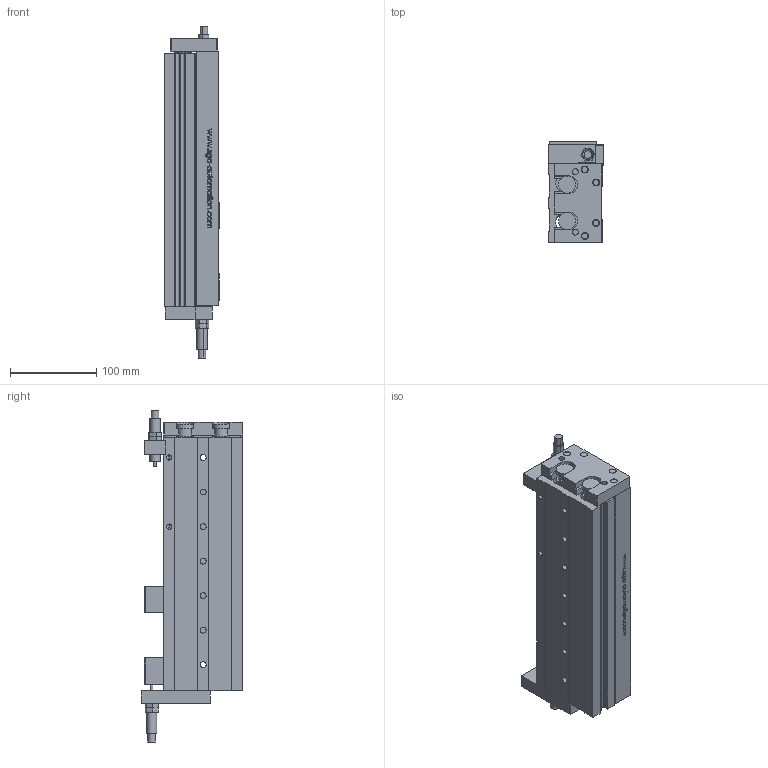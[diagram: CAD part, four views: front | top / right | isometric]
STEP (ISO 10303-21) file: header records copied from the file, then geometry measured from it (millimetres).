
FILE_DESCRIPTION (( 'STEP AP203' ), '1' );
FILE_NAME ('GDX 25-150.STEP', '2013-02-28T14:18:07', ( 'Conseil Régional Haute-Normandie' ), ( 'Conseil Régional Haute-Normandie' ), 'SwSTEP 2.0', 'SolidWorks 2010', '' );
FILE_SCHEMA (( 'CONFIG_CONTROL_DESIGN' ));
Length unit declared in the file: millimetre
Products named in the file (16): Pièce4 GDX 25-150_Default; Pièce4 GDX25-10_Default; Pièce5 GDX25-10_Default; Pièce6 boulon GDX25-10_Default; Pièce16 GDX 25-10_Default; Pièce17 GDX 25-10_Default; GDX 25-150; Pièce5 GDX25-150_Default; Pièce3 GDX25-150_Default; Pièce2 GDX25-150_Default; Pièce1 GDX25-10_Default; Pièce3 GDX25-10_Default; Pièce7 amortisseur GDX25-10_Default; Pièce8 tige amortisseur GDX25-10_Default; Pièce11 GDX25-10_Default; Pièce10 GDX25-10_Default
Assembly tree (36 placements, depth 2):
  GDX 25-150
    Pièce2 GDX25-150_Default
    Pièce4 GDX25-10_Default  x2
    Pièce17 GDX 25-10_Default  x10
    Pièce4 GDX 25-150_Default
    Pièce5 GDX25-10_Default
    Pièce3 GDX25-150_Default  x2
    Pièce6 boulon GDX25-10_Default  x4
    Pièce7 amortisseur GDX25-10_Default  x2
    Pièce10 GDX25-10_Default  x2
    Pièce5 GDX25-150_Default
    Pièce1 GDX25-10_Default
    Pièce8 tige amortisseur GDX25-10_Default  x2
    Pièce11 GDX25-10_Default  x2
    Pièce16 GDX 25-10_Default  x4
    Pièce3 GDX25-10_Default
Bounding box: 63.5 x 118 x 384.52 mm (x, y, z)
Volume: 1492871.9 mm3; surface area: 347617.9 mm2
Topology: 36 solids, 36 shells, 882 faces, 2200 edges, 1422 vertices
Faces by surface type: plane 419, cylinder 274, bspline 133, cone 48, torus 8
Entity records: 34138 total; most frequent: CARTESIAN_POINT 15115, ORIENTED_EDGE 3596, DIRECTION 3114, EDGE_CURVE 1798, VERTEX_POINT 1186, VECTOR 1148, LINE 1148, AXIS2_PLACEMENT_3D 983
